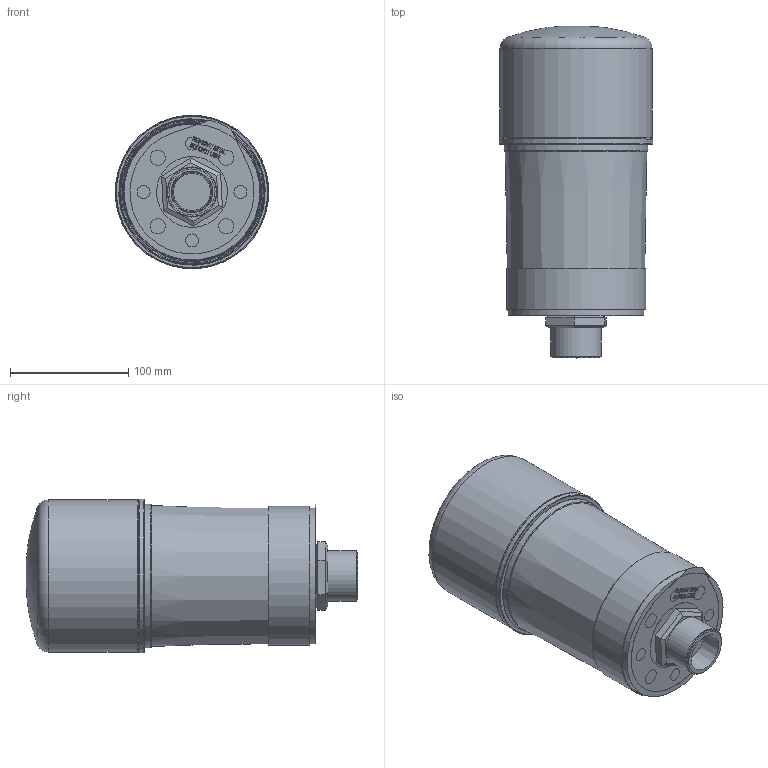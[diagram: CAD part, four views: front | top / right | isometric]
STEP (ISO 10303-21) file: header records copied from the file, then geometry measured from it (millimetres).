
FILE_DESCRIPTION((''),'2;1');
FILE_NAME('L:\RMF Systems\Techniek\00_Drawings\NOT Released\01 STP (step)\01 AIR CONDITONERS\E0028199 - LT1325-51 ARGO-HYTOS BRAND LABEL.stp','2014-08-05T11:49:48',('dennisp'),(''),'Autodesk Inventor 2013','Autodesk Inventor 2013','');
FILE_SCHEMA(('AUTOMOTIVE_DESIGN { 1 0 10303 214 1 1 1 1 }'));
Length unit declared in the file: millimetre
Products named in the file (1): E0028199 - LT1325-51 ARGO-HYTOS BRAND LABEL
Bounding box: 129.7 x 280.9 x 129.7 mm (x, y, z)
Volume: 444729.9 mm3; surface area: 347737 mm2
Topology: 2 solids, 5 shells, 544 faces, 1392 edges, 914 vertices
Faces by surface type: plane 304, bspline 98, cylinder 94, torus 34, cone 14
Full cylindrical faces by diameter (mm): 11 x8, 13 x8, 34.4 x1, 39 x1, 42.4 x2, 60 x1, 92 x1, 94 x1, 104 x1, 106 x1, 117 x1, 118 x1, 120 x2, 122 x2, 124 x1, 127 x1, 128 x1, 129 x1, 130 x1
Entity records: 17713 total; most frequent: CARTESIAN_POINT 4766, ORIENTED_EDGE 2618, DIRECTION 2229, EDGE_CURVE 1309, VERTEX_POINT 892, VECTOR 803, LINE 803, AXIS2_PLACEMENT_3D 713
